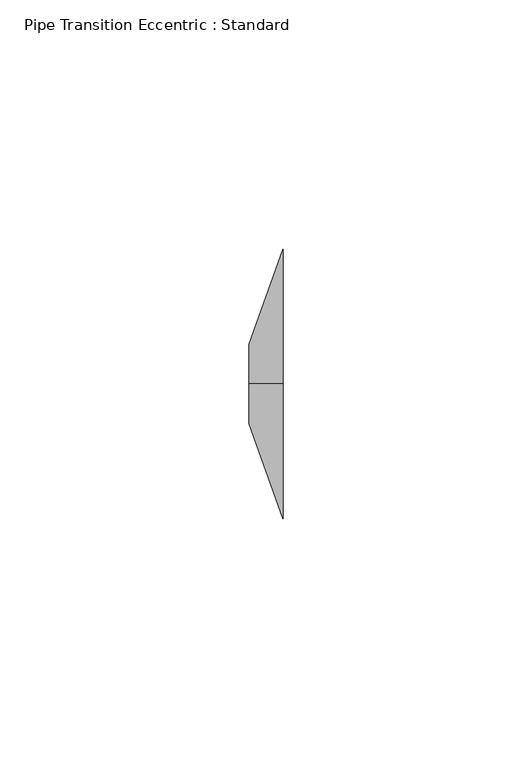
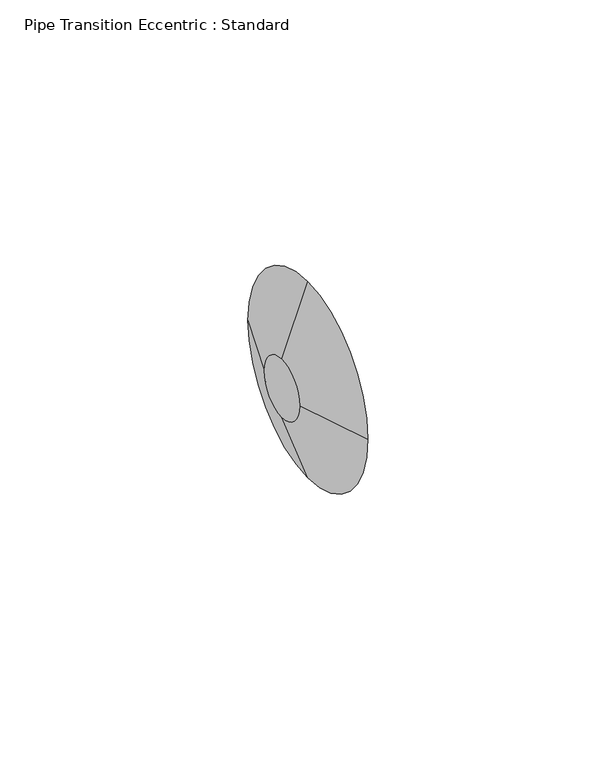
"""IFC4 building model written with IfcOpenShell, lengths in millimetres: pipe fitting geometry, Pipe Transition Eccentric : Standard."""

from ifc_helpers import new_model, si_unit, frame, origin, place, context, project, spatial, polyline, circle_curve, source, transform, mapped, element, save
from ifc_brep_helpers import plane_surface, revolved_surface, advanced_brep


def pipe_transition_eccentric_standard_1e99e33f(model_context):
    return source(origin(), model_context, "Body", "AdvancedBrep", [
        advanced_brep(
        [(6.746875, 0.0, 26.9875), (6.746875, -26.9875, 0.0), (6.746875, 0.0, -26.9875), (6.746875, 26.9875, 0.0), (0.0, 0.0, 7.9375), (0.0, 7.9375, 0.0), (0.0, 0.0, -7.9375), (0.0, -7.9375, 0.0)],
        [
            (0, 1, circle_curve(frame((6.746875, 0.0, 0.0), z_axis=(1.0, 0.0, 0.0), x_axis=(0.0, 0.0, 1.0)), 26.9875)),
            (1, 2, circle_curve(frame((6.746875, 0.0, 0.0), z_axis=(1.0, 0.0, 0.0), x_axis=(0.0, -1.0, 0.0)), 26.9875)),
            (2, 3, circle_curve(frame((6.746875, 0.0, 0.0), z_axis=(1.0, 0.0, 0.0), x_axis=(0.0, 0.0, -1.0)), 26.9875)),
            (3, 0, circle_curve(frame((6.746875, 0.0, 0.0), z_axis=(1.0, 0.0, 0.0), x_axis=(0.0, 1.0, 0.0)), 26.9875)),
            (4, 5, circle_curve(frame((0.0, 0.0, 0.0), z_axis=(-1.0, 0.0, 0.0), x_axis=(0.0, 1.0, 0.0)), 7.9375)),
            (5, 6, circle_curve(frame((0.0, 0.0, 0.0), z_axis=(-1.0, 0.0, 0.0), x_axis=(0.0, 0.0, -1.0)), 7.9375)),
            (6, 7, circle_curve(frame((0.0, 0.0, 0.0), z_axis=(-1.0, 0.0, 0.0), x_axis=(0.0, -1.0, 0.0)), 7.9375)),
            (7, 4, circle_curve(frame((0.0, 0.0, 0.0), z_axis=(-1.0, 0.0, 0.0), x_axis=(0.0, 0.0, 1.0)), 7.9375)),
            (7, 1),
            (0, 4),
            (6, 2),
            (5, 3),
        ],
        [
            plane_surface(frame((6.746875, 0.0, 0.0), z_axis=(1.0, 0.0, 0.0), x_axis=(0.0, -1.0, 0.0))),
            plane_surface(frame((0.0, 0.0, 0.0), z_axis=(-1.0, 0.0, 0.0), x_axis=(0.0, -1.0, 0.0))),
            revolved_surface(polyline([(0.0, -7.937499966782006, 0.0), (6.746874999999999, -26.9875, 0.0)]), (-2.8111979, 0.0, 0.0), (1.0, 0.0, 0.0)),
            revolved_surface(polyline([(0.0, 0.0, -7.937499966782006), (6.746874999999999, 0.0, -26.9875)]), (-2.8111979, 0.0, 0.0), (1.0, 0.0, 0.0)),
            revolved_surface(polyline([(0.0, 7.937499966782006, 0.0), (6.746874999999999, 26.9875, 0.0)]), (-2.8111979, 0.0, 0.0), (1.0, 0.0, 0.0)),
            revolved_surface(polyline([(0.0, 0.0, 7.937499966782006), (6.746874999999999, 0.0, 26.9875)]), (-2.8111979, 0.0, 0.0), (1.0, 0.0, 0.0)),
        ],
        [
            (0, [[1, 2, 3, 4]]),
            (1, [[5, 6, 7, 8]]),
            (2, [[-8, 9, -1, 10]]),
            (3, [[-7, 11, -2, -9]]),
            (4, [[-6, 12, -3, -11]]),
            (5, [[-5, -10, -4, -12]]),
        ],
    ),
        advanced_brep(
        [(6.746875, 0.0, 26.9875), (6.746875, -26.9875, 0.0), (6.746875, 0.0, -26.9875), (6.746875, 26.9875, 0.0), (0.0, 0.0, 7.9375), (0.0, 7.9375, 0.0), (0.0, 0.0, -7.9375), (0.0, -7.9375, 0.0)],
        [
            (0, 1, circle_curve(frame((6.746875, 0.0, 0.0), z_axis=(1.0, 0.0, -1.287929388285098e-12), x_axis=(1.2879204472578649e-12, 0.0, 1.0)), 26.9875)),
            (1, 2, circle_curve(frame((6.746875, 0.0, 0.0), z_axis=(1.0, 0.0, -1.237773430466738e-12), x_axis=(0.0, -1.0, 0.0)), 26.9875)),
            (2, 3, circle_curve(frame((6.746875, 0.0, 0.0), z_axis=(1.0, 0.0, -1.9804194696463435e-12), x_axis=(-1.980405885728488e-12, 0.0, -1.0)), 26.9875)),
            (3, 0, circle_curve(frame((6.746875, 0.0, 0.0), z_axis=(1.0, 0.0, 0.0), x_axis=(0.0, 1.0, 0.0)), 26.9875)),
            (4, 5, circle_curve(frame((0.0, 0.0, 0.0), z_axis=(-1.0, 0.0, 0.0), x_axis=(0.0, 1.0, 0.0)), 7.9375)),
            (5, 6, circle_curve(frame((0.0, 0.0, 0.0), z_axis=(-1.0, 0.0, 1.9804194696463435e-12), x_axis=(-1.980405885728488e-12, 0.0, -1.0)), 7.9375)),
            (6, 7, circle_curve(frame((0.0, 0.0, 0.0), z_axis=(-1.0, 0.0, 1.237773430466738e-12), x_axis=(0.0, -1.0, 0.0)), 7.9375)),
            (7, 4, circle_curve(frame((0.0, 0.0, 0.0), z_axis=(-1.0, 0.0, 1.287929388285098e-12), x_axis=(1.2879204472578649e-12, 0.0, 1.0)), 7.9375)),
            (7, 1),
            (0, 4),
            (6, 2),
            (5, 3),
        ],
        [
            plane_surface(frame((6.746875, 0.0, 0.0), z_axis=(1.0, 0.0, 0.0), x_axis=(0.0, -1.0, 0.0))),
            plane_surface(frame((0.0, 0.0, 0.0), z_axis=(-1.0, 0.0, 0.0), x_axis=(0.0, -1.0, 0.0))),
            revolved_surface(polyline([(-1.0222933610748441e-11, -7.937499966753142, 0.0), (6.746874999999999, -26.9875, 0.0)]), (-2.8111979, 0.0, 0.0), (1.0, 0.0, -1.287929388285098e-12)),
            revolved_surface(polyline([(-9.825029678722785e-12, 0.0, -7.937499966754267), (6.746874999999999, 0.0, -26.9875)]), (-2.8111979, 0.0, 0.0), (1.0, 0.0, -1.237773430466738e-12)),
            revolved_surface(polyline([(0.0, 7.937499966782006, 0.0), (6.746875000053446, 26.98750000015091, 0.0)]), (-2.8111979, 0.0, 0.0), (1.0, 0.0, -1.9804194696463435e-12)),
            revolved_surface(polyline([(0.0, 0.0, 7.937499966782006), (6.746874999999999, 0.0, 26.9875)]), (-2.8111979, 0.0, 0.0), (1.0, 0.0, 0.0)),
        ],
        [
            (0, [[1, 2, 3, 4]]),
            (1, [[5, 6, 7, 8]]),
            (2, [[-8, 9, -1, 10]]),
            (3, [[-7, 11, -2, -9]]),
            (4, [[-6, 12, -3, -11]]),
            (5, [[-5, -10, -4, -12]]),
        ],
    ),
    ])


if __name__ == "__main__":
    model = new_model("IFC4")
    model_context = context("Model", 3, world=origin())
    ifc_project = project(units=[si_unit("LENGTHUNIT", "METRE", prefix="MILLI")], contexts=[model_context])
    site = spatial("IfcSite", under=ifc_project)
    building = spatial("IfcBuilding", under=site)
    placement = place(None, origin())
    pipe_transition_eccentric_standard_shape = pipe_transition_eccentric_standard_1e99e33f(model_context)
    element("IfcPipeFitting", 1, ObjectType="Pipe Transition Eccentric : Standard", at=placement, inside=building, context=model_context, shape_type="MappedRepresentation", body=[
        mapped(pipe_transition_eccentric_standard_shape, transform((0.0, 0.0, 0.0), x_axis=(1.0, 0.0, 0.0), y_axis=(0.0, 1.0, 0.0), z_axis=(0.0, 0.0, 1.0))),
    ])
    save(model, "model.ifc")
